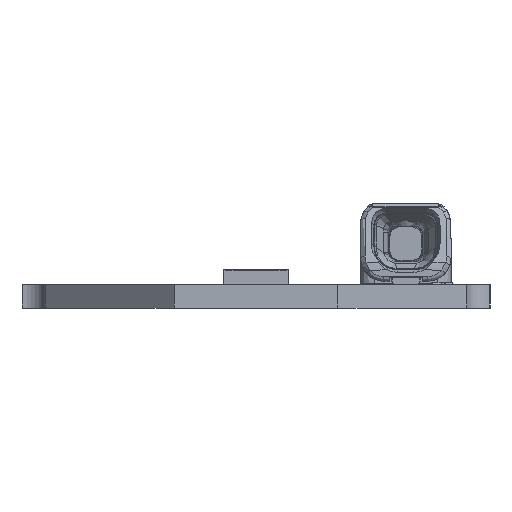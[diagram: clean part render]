
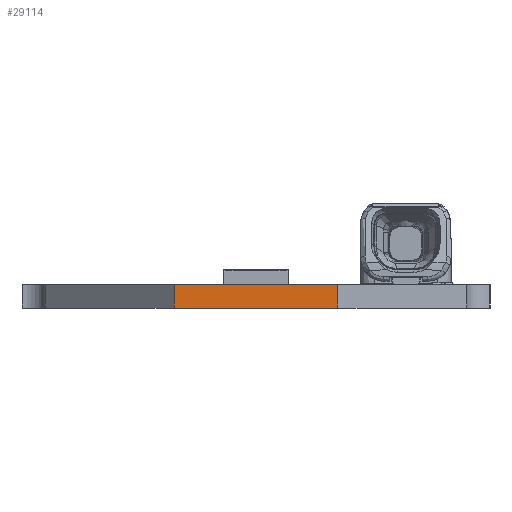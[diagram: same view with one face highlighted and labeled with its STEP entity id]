
A CAD part, left-side view. The second image highlights one B-rep face of the part: STEP entity #29114.
In plain terms, the highlighted planar face has unit normal (-1, 0, 0).
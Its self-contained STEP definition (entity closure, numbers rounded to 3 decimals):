
#831=LINE('',#35880,#3139);
#2968=LINE('',#43774,#5276);
#2969=LINE('',#43776,#5277);
#2970=LINE('',#43778,#5278);
#3139=VECTOR('',#30688,1000.);
#5276=VECTOR('',#35365,1000.);
#5277=VECTOR('',#35368,1000.);
#5278=VECTOR('',#35369,1000.);
#10928=ORIENTED_EDGE('',*,*,#11460,.F.);
#10929=ORIENTED_EDGE('',*,*,#14236,.F.);
#10930=ORIENTED_EDGE('',*,*,#14237,.T.);
#10931=ORIENTED_EDGE('',*,*,#14238,.T.);
#11460=EDGE_CURVE('',#14464,#14465,#831,.T.);
#14236=EDGE_CURVE('',#16281,#14464,#2968,.T.);
#14237=EDGE_CURVE('',#16281,#16282,#2969,.T.);
#14238=EDGE_CURVE('',#16282,#14465,#2970,.T.);
#14464=VERTEX_POINT('',#35879);
#14465=VERTEX_POINT('',#35881);
#16281=VERTEX_POINT('',#43773);
#16282=VERTEX_POINT('',#43777);
#17768=EDGE_LOOP('',(#10928,#10929,#10930,#10931));
#19025=FACE_BOUND('',#17768,.T.);
#19900=PLANE('',#30502);
#29114=ADVANCED_FACE('',(#19025),#19900,.T.);
#30502=AXIS2_PLACEMENT_3D('',#43775,#35366,#35367);
#30688=DIRECTION('',(0.,-1.,0.));
#35365=DIRECTION('',(0.,0.,1.));
#35366=DIRECTION('',(-1.,0.,0.));
#35367=DIRECTION('',(0.,0.,1.));
#35368=DIRECTION('',(0.,-1.,0.));
#35369=DIRECTION('',(0.,0.,1.));
#35879=CARTESIAN_POINT('',(-279.8,3.5,0.));
#35880=CARTESIAN_POINT('',(-279.8,3.5,0.));
#35881=CARTESIAN_POINT('',(-279.8,-3.5,0.));
#43773=CARTESIAN_POINT('',(-279.8,3.5,-1.));
#43774=CARTESIAN_POINT('',(-279.8,3.5,-1.));
#43775=CARTESIAN_POINT('',(-279.8,3.5,-1.));
#43776=CARTESIAN_POINT('',(-279.8,3.5,-1.));
#43777=CARTESIAN_POINT('',(-279.8,-3.5,-1.));
#43778=CARTESIAN_POINT('',(-279.8,-3.5,-1.));
